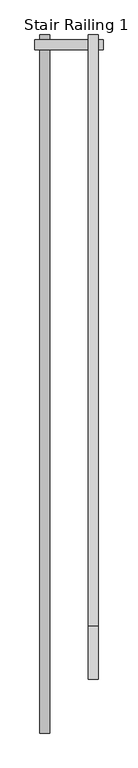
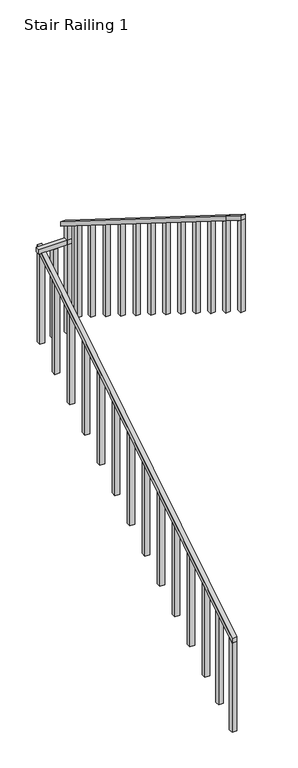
"""IFC4 building model written with IfcOpenShell, lengths in millimetres: railing geometry, Stair Railing 1."""

from ifc_helpers import new_model, si_unit, frame, origin, place, context, project, spatial, polyline, outline, extrude, source, transform, mapped, element, save


def stair_railing_1_54533a57(model_context):
    return source(origin(), model_context, "Body", "SweptSolid", [
        extrude(outline(polyline([(42823.1018942, 13727.2888889), (42823.1018942, 13676.4888889), (39190.9018942, 11401.7777778), (39190.9018942, 11452.5777778), (42823.1018942, 13727.2888889)])), frame((-114054.173517, 0.0, 0.0), z_axis=(1.0, 0.0, 0.0), x_axis=(0.0, 1.0, 0.0)), (0.0, 0.0, 1.0), 50.8),
        extrude(outline(polyline([(39241.7018942, 11433.5919192), (39241.7018942, 10385.7777778), (39190.9018942, 10385.7777778), (39190.9018942, 11401.7777778), (39241.7018942, 11433.5919192)])), frame((-114054.173517, 0.0, 0.0), z_axis=(1.0, 0.0, 0.0), x_axis=(0.0, 1.0, 0.0)), (0.0, 0.0, 1.0), 50.8),
        extrude(outline(polyline([(39495.7018942, 11592.6626263), (39495.7018942, 10544.8484848), (39444.9018942, 10544.8484848), (39444.9018942, 11560.8484848), (39495.7018942, 11592.6626263)])), frame((-114054.173517, 0.0, 0.0), z_axis=(1.0, 0.0, 0.0), x_axis=(0.0, 1.0, 0.0)), (0.0, 0.0, 1.0), 50.8),
        extrude(outline(polyline([(39749.7018942, 11751.7333333), (39749.7018942, 10703.9191919), (39698.9018942, 10703.9191919), (39698.9018942, 11719.9191919), (39749.7018942, 11751.7333333)])), frame((-114054.173517, 0.0, 0.0), z_axis=(1.0, 0.0, 0.0), x_axis=(0.0, 1.0, 0.0)), (0.0, 0.0, 1.0), 50.8),
        extrude(outline(polyline([(40029.1018942, 11926.7111111), (40029.1018942, 10878.8969697), (39978.3018942, 10878.8969697), (39978.3018942, 11894.8969697), (40029.1018942, 11926.7111111)])), frame((-114054.173517, 0.0, 0.0), z_axis=(1.0, 0.0, 0.0), x_axis=(0.0, 1.0, 0.0)), (0.0, 0.0, 1.0), 50.8),
        extrude(outline(polyline([(40308.5018942, 12101.6888889), (40308.5018942, 11053.8747475), (40257.7018942, 11053.8747475), (40257.7018942, 12069.8747475), (40308.5018942, 12101.6888889)])), frame((-114054.173517, 0.0, 0.0), z_axis=(1.0, 0.0, 0.0), x_axis=(0.0, 1.0, 0.0)), (0.0, 0.0, 1.0), 50.8),
        extrude(outline(polyline([(40587.9018942, 12276.6666667), (40587.9018942, 11228.8525253), (40537.1018942, 11228.8525253), (40537.1018942, 12244.8525253), (40587.9018942, 12276.6666667)])), frame((-114054.173517, 0.0, 0.0), z_axis=(1.0, 0.0, 0.0), x_axis=(0.0, 1.0, 0.0)), (0.0, 0.0, 1.0), 50.8),
        extrude(outline(polyline([(40867.3018942, 12451.6444444), (40867.3018942, 11403.830303), (40816.5018942, 11403.830303), (40816.5018942, 12419.830303), (40867.3018942, 12451.6444444)])), frame((-114054.173517, 0.0, 0.0), z_axis=(1.0, 0.0, 0.0), x_axis=(0.0, 1.0, 0.0)), (0.0, 0.0, 1.0), 50.8),
        extrude(outline(polyline([(41146.7018942, 12626.6222222), (41146.7018942, 11578.8080808), (41095.9018942, 11578.8080808), (41095.9018942, 12594.8080808), (41146.7018942, 12626.6222222)])), frame((-114054.173517, 0.0, 0.0), z_axis=(1.0, 0.0, 0.0), x_axis=(0.0, 1.0, 0.0)), (0.0, 0.0, 1.0), 50.8),
        extrude(outline(polyline([(41426.1018942, 12801.6), (41426.1018942, 11753.7858586), (41375.3018942, 11753.7858586), (41375.3018942, 12769.7858586), (41426.1018942, 12801.6)])), frame((-114054.173517, 0.0, 0.0), z_axis=(1.0, 0.0, 0.0), x_axis=(0.0, 1.0, 0.0)), (0.0, 0.0, 1.0), 50.8),
        extrude(outline(polyline([(41705.5018942, 12976.5777778), (41705.5018942, 11928.7636364), (41654.7018942, 11928.7636364), (41654.7018942, 12944.7636364), (41705.5018942, 12976.5777778)])), frame((-114054.173517, 0.0, 0.0), z_axis=(1.0, 0.0, 0.0), x_axis=(0.0, 1.0, 0.0)), (0.0, 0.0, 1.0), 50.8),
        extrude(outline(polyline([(41984.9018942, 13151.5555556), (41984.9018942, 12103.7414141), (41934.1018942, 12103.7414141), (41934.1018942, 13119.7414141), (41984.9018942, 13151.5555556)])), frame((-114054.173517, 0.0, 0.0), z_axis=(1.0, 0.0, 0.0), x_axis=(0.0, 1.0, 0.0)), (0.0, 0.0, 1.0), 50.8),
        extrude(outline(polyline([(42264.3018942, 13326.5333333), (42264.3018942, 12278.7191919), (42213.5018942, 12278.7191919), (42213.5018942, 13294.7191919), (42264.3018942, 13326.5333333)])), frame((-114054.173517, 0.0, 0.0), z_axis=(1.0, 0.0, 0.0), x_axis=(0.0, 1.0, 0.0)), (0.0, 0.0, 1.0), 50.8),
        extrude(outline(polyline([(42543.7018942, 13501.5111111), (42543.7018942, 12453.6969697), (42492.9018942, 12453.6969697), (42492.9018942, 13469.6969697), (42543.7018942, 13501.5111111)])), frame((-114054.173517, 0.0, 0.0), z_axis=(1.0, 0.0, 0.0), x_axis=(0.0, 1.0, 0.0)), (0.0, 0.0, 1.0), 50.8),
        extrude(outline(polyline([(42823.1018942, 13676.4888889), (42823.1018942, 12628.6747475), (42772.3018942, 12628.6747475), (42772.3018942, 13644.6747475), (42823.1018942, 13676.4888889)])), frame((-114054.173517, 0.0, 0.0), z_axis=(1.0, 0.0, 0.0), x_axis=(0.0, 1.0, 0.0)), (0.0, 0.0, 1.0), 50.8),
        extrude(outline(polyline([(-113725.0492148, 42797.7018942), (-113725.0492148, 42746.9018942), (-114079.573517, 42746.9018942), (-114079.573517, 42797.7018942), (-113725.0492148, 42797.7018942)])), frame((0.0, 0.0, 13676.4888889), z_axis=(0.0, 0.0, 1.0), x_axis=(1.0, 0.0, 0.0)), (0.0, 0.0, 1.0), 50.8),
        extrude(outline(polyline([(-113927.7113659, 42797.7018942), (-113876.9113659, 42797.7018942), (-113876.9113659, 42746.9018942), (-113927.7113659, 42746.9018942), (-113927.7113659, 42797.7018942)])), frame((0.0, 0.0, 12660.4888889), z_axis=(0.0, 0.0, 1.0), x_axis=(1.0, 0.0, 0.0)), (0.0, 0.0, 1.0), 1016.0),
        extrude(outline(polyline([(-113775.8492148, 42797.7018942), (-113725.0492148, 42797.7018942), (-113725.0492148, 42746.9018942), (-113775.8492148, 42746.9018942), (-113775.8492148, 42797.7018942)])), frame((0.0, 0.0, 12660.4888889), z_axis=(0.0, 0.0, 1.0), x_axis=(1.0, 0.0, 0.0)), (0.0, 0.0, 1.0), 1241.7777778),
        extrude(outline(polyline([(39749.7018942, 15776.2222222), (39749.7018942, 15827.0222222), (42823.1018942, 13902.2666667), (42823.1018942, 13851.4666667), (39749.7018942, 15776.2222222)])), frame((-113801.2492148, 0.0, 0.0), z_axis=(1.0, 0.0, 0.0), x_axis=(0.0, 1.0, 0.0)), (0.0, 0.0, 1.0), 50.8),
        extrude(outline(polyline([(42569.1018942, 14010.5373737), (42569.1018942, 12994.5373737), (42518.3018942, 12994.5373737), (42518.3018942, 14042.3515152), (42569.1018942, 14010.5373737)])), frame((-113801.2492148, 0.0, 0.0), z_axis=(1.0, 0.0, 0.0), x_axis=(0.0, 1.0, 0.0)), (0.0, 0.0, 1.0), 50.8),
        extrude(outline(polyline([(42315.1018942, 14169.6080808), (42315.1018942, 13153.6080808), (42264.3018942, 13153.6080808), (42264.3018942, 14201.4222222), (42315.1018942, 14169.6080808)])), frame((-113801.2492148, 0.0, 0.0), z_axis=(1.0, 0.0, 0.0), x_axis=(0.0, 1.0, 0.0)), (0.0, 0.0, 1.0), 50.8),
        extrude(outline(polyline([(42035.7018942, 14344.5858586), (42035.7018942, 13328.5858586), (41984.9018942, 13328.5858586), (41984.9018942, 14376.4), (42035.7018942, 14344.5858586)])), frame((-113801.2492148, 0.0, 0.0), z_axis=(1.0, 0.0, 0.0), x_axis=(0.0, 1.0, 0.0)), (0.0, 0.0, 1.0), 50.8),
        extrude(outline(polyline([(41756.3018942, 14519.5636364), (41756.3018942, 13503.5636364), (41705.5018942, 13503.5636364), (41705.5018942, 14551.3777778), (41756.3018942, 14519.5636364)])), frame((-113801.2492148, 0.0, 0.0), z_axis=(1.0, 0.0, 0.0), x_axis=(0.0, 1.0, 0.0)), (0.0, 0.0, 1.0), 50.8),
        extrude(outline(polyline([(41476.9018942, 14694.5414141), (41476.9018942, 13678.5414141), (41426.1018942, 13678.5414141), (41426.1018942, 14726.3555556), (41476.9018942, 14694.5414141)])), frame((-113801.2492148, 0.0, 0.0), z_axis=(1.0, 0.0, 0.0), x_axis=(0.0, 1.0, 0.0)), (0.0, 0.0, 1.0), 50.8),
        extrude(outline(polyline([(41197.5018942, 14869.5191919), (41197.5018942, 13853.5191919), (41146.7018942, 13853.5191919), (41146.7018942, 14901.3333333), (41197.5018942, 14869.5191919)])), frame((-113801.2492148, 0.0, 0.0), z_axis=(1.0, 0.0, 0.0), x_axis=(0.0, 1.0, 0.0)), (0.0, 0.0, 1.0), 50.8),
        extrude(outline(polyline([(40918.1018942, 15044.4969697), (40918.1018942, 14028.4969697), (40867.3018942, 14028.4969697), (40867.3018942, 15076.3111111), (40918.1018942, 15044.4969697)])), frame((-113801.2492148, 0.0, 0.0), z_axis=(1.0, 0.0, 0.0), x_axis=(0.0, 1.0, 0.0)), (0.0, 0.0, 1.0), 50.8),
        extrude(outline(polyline([(40638.7018942, 15219.4747475), (40638.7018942, 14203.4747475), (40587.9018942, 14203.4747475), (40587.9018942, 15251.2888889), (40638.7018942, 15219.4747475)])), frame((-113801.2492148, 0.0, 0.0), z_axis=(1.0, 0.0, 0.0), x_axis=(0.0, 1.0, 0.0)), (0.0, 0.0, 1.0), 50.8),
        extrude(outline(polyline([(40359.3018942, 15394.4525253), (40359.3018942, 14378.4525253), (40308.5018942, 14378.4525253), (40308.5018942, 15426.2666667), (40359.3018942, 15394.4525253)])), frame((-113801.2492148, 0.0, 0.0), z_axis=(1.0, 0.0, 0.0), x_axis=(0.0, 1.0, 0.0)), (0.0, 0.0, 1.0), 50.8),
        extrude(outline(polyline([(40079.9018942, 15569.430303), (40079.9018942, 14553.430303), (40029.1018942, 14553.430303), (40029.1018942, 15601.2444444), (40079.9018942, 15569.430303)])), frame((-113801.2492148, 0.0, 0.0), z_axis=(1.0, 0.0, 0.0), x_axis=(0.0, 1.0, 0.0)), (0.0, 0.0, 1.0), 50.8),
        extrude(outline(polyline([(39800.5018942, 15744.4080808), (39800.5018942, 14728.4080808), (39749.7018942, 14728.4080808), (39749.7018942, 15776.2222222), (39800.5018942, 15744.4080808)])), frame((-113801.2492148, 0.0, 0.0), z_axis=(1.0, 0.0, 0.0), x_axis=(0.0, 1.0, 0.0)), (0.0, 0.0, 1.0), 50.8),
        extrude(outline(polyline([(39470.3018942, 15951.2), (39470.3018942, 16002.0), (39749.7018942, 15827.0222222), (39749.7018942, 15776.2222222), (39470.3018942, 15951.2)])), frame((-113801.2492148, 0.0, 0.0), z_axis=(1.0, 0.0, 0.0), x_axis=(0.0, 1.0, 0.0)), (0.0, 0.0, 1.0), 50.8),
        extrude(outline(polyline([(39521.1018942, 15919.3858586), (39521.1018942, 14903.3858586), (39470.3018942, 14903.3858586), (39470.3018942, 15951.2), (39521.1018942, 15919.3858586)])), frame((-113801.2492148, 0.0, 0.0), z_axis=(1.0, 0.0, 0.0), x_axis=(0.0, 1.0, 0.0)), (0.0, 0.0, 1.0), 50.8),
    ])


if __name__ == "__main__":
    model = new_model("IFC4")
    model_context = context("Model", 3, world=origin())
    ifc_project = project(units=[si_unit("LENGTHUNIT", "METRE", prefix="MILLI")], contexts=[model_context])
    site = spatial("IfcSite", under=ifc_project)
    building = spatial("IfcBuilding", under=site)
    placement = place(None, origin())
    stair_railing_1_shape = stair_railing_1_54533a57(model_context)
    element("IfcRailing", 1, ObjectType="Stair Railing 1", at=placement, inside=building, context=model_context, shape_type="MappedRepresentation", body=[
        mapped(stair_railing_1_shape, transform((0.0, 0.0, 0.0), x_axis=(1.0, 0.0, 0.0), y_axis=(0.0, 1.0, 0.0), z_axis=(0.0, 0.0, 1.0))),
    ])
    save(model, "model.ifc")
